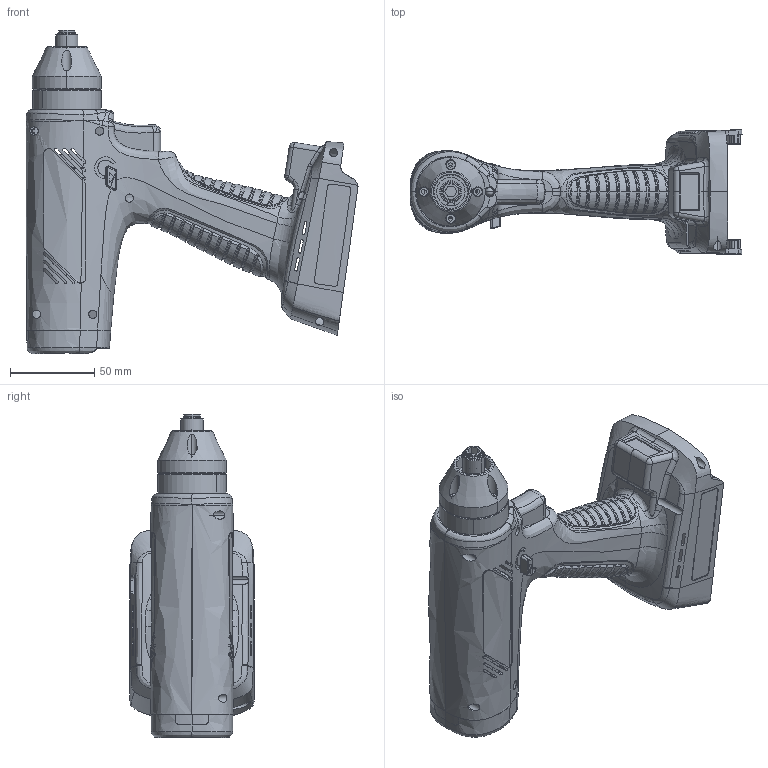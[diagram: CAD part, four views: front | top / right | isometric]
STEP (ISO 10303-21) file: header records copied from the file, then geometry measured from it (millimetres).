
FILE_DESCRIPTION (( 'STEP AP203' ), '1' );
FILE_NAME ('BM3201 諼睡辨.STEP', '2021-03-03T01:00:35', ( '' ), ( '' ), 'SwSTEP 2.0', 'SolidWorks 2020', '' );
FILE_SCHEMA (( 'CONFIG_CONTROL_DESIGN' ));
Length unit declared in the file: millimetre
Products named in the file (1): BM3201 諼睡辨
Bounding box: 197.56 x 73.96 x 192.25 mm (x, y, z)
Surface area: 115506.9 mm2 (no closed solid volume)
Topology: 0 solids, 51 shells, 1177 faces, 4293 edges, 3116 vertices
Faces by surface type: bspline 455, plane 356, cylinder 269, cone 44, torus 31, sphere 22
Entity records: 108569 total; most frequent: CARTESIAN_POINT 78281, ORIENTED_EDGE 6837, EDGE_CURVE 4276, DIRECTION 4151, VERTEX_POINT 3113, B_SPLINE_CURVE_WITH_KNOTS 2074, VECTOR 1457, LINE 1457
